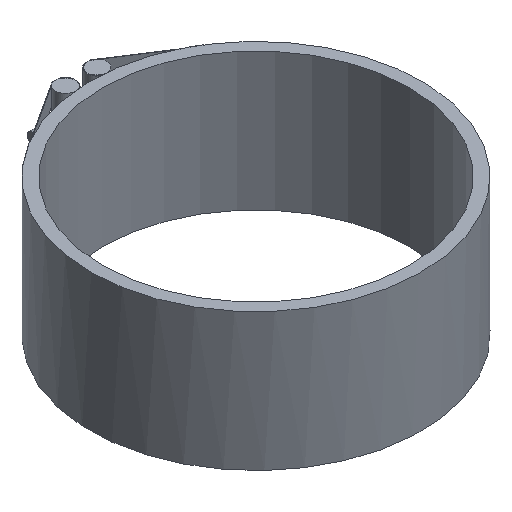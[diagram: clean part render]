
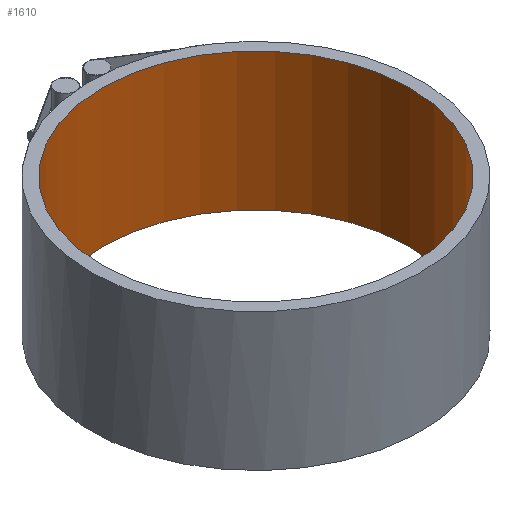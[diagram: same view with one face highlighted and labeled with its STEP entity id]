
A CAD part, isometric view. The second image highlights one B-rep face of the part: STEP entity #1610.
In plain terms, the highlighted cylindrical face has radius 157.5 mm (diameter 315 mm), a full revolution.
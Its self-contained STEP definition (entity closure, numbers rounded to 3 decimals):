
#364=CYLINDRICAL_SURFACE('',#1752,157.5);
#418=FACE_BOUND('',#594,.T.);
#466=FACE_OUTER_BOUND('',#593,.T.);
#593=EDGE_LOOP('',(#1313));
#594=EDGE_LOOP('',(#1314));
#691=CIRCLE('',#1753,157.5);
#692=CIRCLE('',#1754,157.5);
#831=VERTEX_POINT('',#2856);
#832=VERTEX_POINT('',#2858);
#1007=EDGE_CURVE('',#831,#831,#691,.T.);
#1008=EDGE_CURVE('',#832,#832,#692,.T.);
#1313=ORIENTED_EDGE('',*,*,#1007,.F.);
#1314=ORIENTED_EDGE('',*,*,#1008,.F.);
#1610=ADVANCED_FACE('',(#466,#418),#364,.F.);
#1752=AXIS2_PLACEMENT_3D('',#2855,#2089,#2090);
#1753=AXIS2_PLACEMENT_3D('',#2857,#2091,#2092);
#1754=AXIS2_PLACEMENT_3D('',#2859,#2093,#2094);
#2089=DIRECTION('center_axis',(0.,0.,1.));
#2090=DIRECTION('ref_axis',(-1.,0.,0.));
#2091=DIRECTION('center_axis',(0.,0.,1.));
#2092=DIRECTION('ref_axis',(-1.,0.,0.));
#2093=DIRECTION('center_axis',(0.,0.,-1.));
#2094=DIRECTION('ref_axis',(-1.,0.,0.));
#2855=CARTESIAN_POINT('Origin',(0.,0.,0.));
#2856=CARTESIAN_POINT('',(157.5,0.,-70.5));
#2857=CARTESIAN_POINT('Origin',(0.,0.,-70.5));
#2858=CARTESIAN_POINT('',(157.5,0.,70.5));
#2859=CARTESIAN_POINT('Origin',(0.,0.,70.5));
